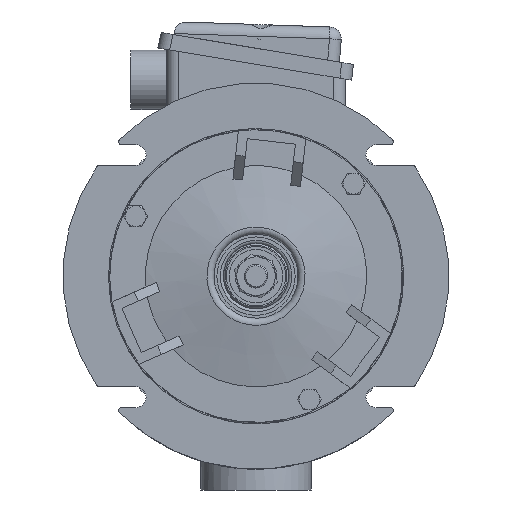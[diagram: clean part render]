
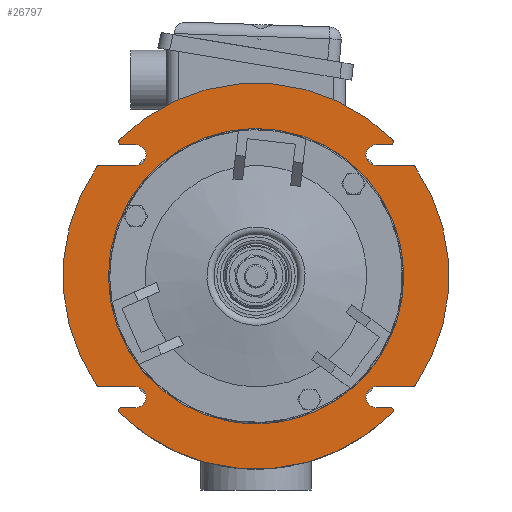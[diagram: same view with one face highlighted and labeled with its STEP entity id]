
A CAD part, front view. The second image highlights one B-rep face of the part: STEP entity #26797.
In plain terms, the highlighted planar face has unit normal (0, -1, 0).
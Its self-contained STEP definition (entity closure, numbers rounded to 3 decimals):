
#1094=FACE_BOUND('',#4589,.T.);
#1760=PLANE('',#29165);
#3012=FACE_OUTER_BOUND('',#4588,.T.);
#4588=EDGE_LOOP('',(#22382,#22383,#22384,#22385,#22386,#22387,#22388,#22389,
#22390,#22391,#22392,#22393,#22394,#22395,#22396,#22397,#22398,#22399,#22400,
#22401,#22402,#22403,#22404,#22405));
#4589=EDGE_LOOP('',(#22406,#22407));
#6490=LINE('',#51226,#8479);
#6493=LINE('',#51236,#8482);
#6494=LINE('',#51240,#8483);
#6495=LINE('',#51248,#8484);
#6496=LINE('',#51252,#8485);
#6497=LINE('',#51260,#8486);
#6498=LINE('',#51264,#8487);
#6499=LINE('',#51272,#8488);
#8479=VECTOR('',#35334,1.);
#8482=VECTOR('',#35343,1.);
#8483=VECTOR('',#35346,1.);
#8484=VECTOR('',#35353,1.);
#8485=VECTOR('',#35356,1.);
#8486=VECTOR('',#35363,1.);
#8487=VECTOR('',#35366,1.);
#8488=VECTOR('',#35373,1.);
#9787=CIRCLE('',#29163,0.1);
#9788=CIRCLE('',#29166,6.5);
#9789=CIRCLE('',#29167,0.1);
#9790=CIRCLE('',#29168,0.35);
#9791=CIRCLE('',#29169,0.1);
#9792=CIRCLE('',#29170,6.5);
#9793=CIRCLE('',#29171,0.1);
#9794=CIRCLE('',#29172,0.35);
#9795=CIRCLE('',#29173,0.1);
#9796=CIRCLE('',#29174,6.5);
#9797=CIRCLE('',#29175,0.1);
#9798=CIRCLE('',#29176,0.35);
#9799=CIRCLE('',#29177,0.1);
#9800=CIRCLE('',#29178,6.5);
#9801=CIRCLE('',#29179,0.1);
#9802=CIRCLE('',#29180,0.35);
#9803=CIRCLE('',#29181,4.97);
#9804=CIRCLE('',#29182,4.97);
#12072=VERTEX_POINT('',#51219);
#12073=VERTEX_POINT('',#51221);
#12074=VERTEX_POINT('',#51225);
#12076=VERTEX_POINT('',#51231);
#12077=VERTEX_POINT('',#51233);
#12078=VERTEX_POINT('',#51235);
#12079=VERTEX_POINT('',#51237);
#12080=VERTEX_POINT('',#51239);
#12081=VERTEX_POINT('',#51241);
#12082=VERTEX_POINT('',#51243);
#12083=VERTEX_POINT('',#51245);
#12084=VERTEX_POINT('',#51247);
#12085=VERTEX_POINT('',#51249);
#12086=VERTEX_POINT('',#51251);
#12087=VERTEX_POINT('',#51253);
#12088=VERTEX_POINT('',#51255);
#12089=VERTEX_POINT('',#51257);
#12090=VERTEX_POINT('',#51259);
#12091=VERTEX_POINT('',#51261);
#12092=VERTEX_POINT('',#51263);
#12093=VERTEX_POINT('',#51265);
#12094=VERTEX_POINT('',#51267);
#12095=VERTEX_POINT('',#51269);
#12096=VERTEX_POINT('',#51271);
#12097=VERTEX_POINT('',#51274);
#12098=VERTEX_POINT('',#51275);
#15609=EDGE_CURVE('',#12072,#12073,#9787,.T.);
#15611=EDGE_CURVE('',#12074,#12073,#6490,.T.);
#15614=EDGE_CURVE('',#12072,#12076,#9788,.T.);
#15615=EDGE_CURVE('',#12077,#12076,#9789,.T.);
#15616=EDGE_CURVE('',#12077,#12078,#6493,.T.);
#15617=EDGE_CURVE('',#12079,#12078,#9790,.T.);
#15618=EDGE_CURVE('',#12079,#12080,#6494,.T.);
#15619=EDGE_CURVE('',#12081,#12080,#9791,.T.);
#15620=EDGE_CURVE('',#12081,#12082,#9792,.T.);
#15621=EDGE_CURVE('',#12083,#12082,#9793,.T.);
#15622=EDGE_CURVE('',#12083,#12084,#6495,.T.);
#15623=EDGE_CURVE('',#12085,#12084,#9794,.T.);
#15624=EDGE_CURVE('',#12085,#12086,#6496,.T.);
#15625=EDGE_CURVE('',#12087,#12086,#9795,.T.);
#15626=EDGE_CURVE('',#12087,#12088,#9796,.T.);
#15627=EDGE_CURVE('',#12089,#12088,#9797,.T.);
#15628=EDGE_CURVE('',#12089,#12090,#6497,.T.);
#15629=EDGE_CURVE('',#12091,#12090,#9798,.T.);
#15630=EDGE_CURVE('',#12091,#12092,#6498,.T.);
#15631=EDGE_CURVE('',#12093,#12092,#9799,.T.);
#15632=EDGE_CURVE('',#12093,#12094,#9800,.T.);
#15633=EDGE_CURVE('',#12095,#12094,#9801,.T.);
#15634=EDGE_CURVE('',#12095,#12096,#6499,.T.);
#15635=EDGE_CURVE('',#12074,#12096,#9802,.T.);
#15636=EDGE_CURVE('',#12097,#12098,#9803,.T.);
#15637=EDGE_CURVE('',#12098,#12097,#9804,.T.);
#22382=ORIENTED_EDGE('',*,*,#15609,.F.);
#22383=ORIENTED_EDGE('',*,*,#15614,.T.);
#22384=ORIENTED_EDGE('',*,*,#15615,.F.);
#22385=ORIENTED_EDGE('',*,*,#15616,.T.);
#22386=ORIENTED_EDGE('',*,*,#15617,.F.);
#22387=ORIENTED_EDGE('',*,*,#15618,.T.);
#22388=ORIENTED_EDGE('',*,*,#15619,.F.);
#22389=ORIENTED_EDGE('',*,*,#15620,.T.);
#22390=ORIENTED_EDGE('',*,*,#15621,.F.);
#22391=ORIENTED_EDGE('',*,*,#15622,.T.);
#22392=ORIENTED_EDGE('',*,*,#15623,.F.);
#22393=ORIENTED_EDGE('',*,*,#15624,.T.);
#22394=ORIENTED_EDGE('',*,*,#15625,.F.);
#22395=ORIENTED_EDGE('',*,*,#15626,.T.);
#22396=ORIENTED_EDGE('',*,*,#15627,.F.);
#22397=ORIENTED_EDGE('',*,*,#15628,.T.);
#22398=ORIENTED_EDGE('',*,*,#15629,.F.);
#22399=ORIENTED_EDGE('',*,*,#15630,.T.);
#22400=ORIENTED_EDGE('',*,*,#15631,.F.);
#22401=ORIENTED_EDGE('',*,*,#15632,.T.);
#22402=ORIENTED_EDGE('',*,*,#15633,.F.);
#22403=ORIENTED_EDGE('',*,*,#15634,.T.);
#22404=ORIENTED_EDGE('',*,*,#15635,.F.);
#22405=ORIENTED_EDGE('',*,*,#15611,.T.);
#22406=ORIENTED_EDGE('',*,*,#15636,.F.);
#22407=ORIENTED_EDGE('',*,*,#15637,.F.);
#26797=ADVANCED_FACE('',(#3012,#1094),#1760,.T.);
#29163=AXIS2_PLACEMENT_3D('',#51222,#35329,#35330);
#29165=AXIS2_PLACEMENT_3D('',#51230,#35337,#35338);
#29166=AXIS2_PLACEMENT_3D('',#51232,#35339,#35340);
#29167=AXIS2_PLACEMENT_3D('',#51234,#35341,#35342);
#29168=AXIS2_PLACEMENT_3D('',#51238,#35344,#35345);
#29169=AXIS2_PLACEMENT_3D('',#51242,#35347,#35348);
#29170=AXIS2_PLACEMENT_3D('',#51244,#35349,#35350);
#29171=AXIS2_PLACEMENT_3D('',#51246,#35351,#35352);
#29172=AXIS2_PLACEMENT_3D('',#51250,#35354,#35355);
#29173=AXIS2_PLACEMENT_3D('',#51254,#35357,#35358);
#29174=AXIS2_PLACEMENT_3D('',#51256,#35359,#35360);
#29175=AXIS2_PLACEMENT_3D('',#51258,#35361,#35362);
#29176=AXIS2_PLACEMENT_3D('',#51262,#35364,#35365);
#29177=AXIS2_PLACEMENT_3D('',#51266,#35367,#35368);
#29178=AXIS2_PLACEMENT_3D('',#51268,#35369,#35370);
#29179=AXIS2_PLACEMENT_3D('',#51270,#35371,#35372);
#29180=AXIS2_PLACEMENT_3D('',#51273,#35374,#35375);
#29181=AXIS2_PLACEMENT_3D('',#51276,#35376,#35377);
#29182=AXIS2_PLACEMENT_3D('',#51277,#35378,#35379);
#35329=DIRECTION('center_axis',(0.,1.,0.));
#35330=DIRECTION('ref_axis',(0.466,0.,-0.885));
#35334=DIRECTION('',(1.,0.,0.));
#35337=DIRECTION('center_axis',(0.,-1.,0.));
#35338=DIRECTION('ref_axis',(0.,0.,-1.));
#35339=DIRECTION('center_axis',(0.,-1.,0.));
#35340=DIRECTION('ref_axis',(1.,0.,0.));
#35341=DIRECTION('center_axis',(0.,1.,0.));
#35342=DIRECTION('ref_axis',(0.466,0.,0.885));
#35343=DIRECTION('',(-1.,0.,0.));
#35344=DIRECTION('center_axis',(0.,-1.,0.));
#35345=DIRECTION('ref_axis',(-0.707,0.,0.707));
#35346=DIRECTION('',(1.,0.,0.));
#35347=DIRECTION('center_axis',(0.,1.,0.));
#35348=DIRECTION('ref_axis',(0.924,0.,-0.383));
#35349=DIRECTION('center_axis',(0.,-1.,0.));
#35350=DIRECTION('ref_axis',(1.,0.,0.));
#35351=DIRECTION('center_axis',(0.,1.,0.));
#35352=DIRECTION('ref_axis',(-0.924,0.,-0.383));
#35353=DIRECTION('',(1.,0.,0.));
#35354=DIRECTION('center_axis',(0.,-1.,0.));
#35355=DIRECTION('ref_axis',(0.707,0.,-0.707));
#35356=DIRECTION('',(-1.,0.,0.));
#35357=DIRECTION('center_axis',(0.,1.,0.));
#35358=DIRECTION('ref_axis',(-0.466,0.,0.885));
#35359=DIRECTION('center_axis',(0.,-1.,0.));
#35360=DIRECTION('ref_axis',(1.,0.,0.));
#35361=DIRECTION('center_axis',(0.,1.,0.));
#35362=DIRECTION('ref_axis',(-0.466,0.,-0.885));
#35363=DIRECTION('',(1.,0.,0.));
#35364=DIRECTION('center_axis',(0.,-1.,0.));
#35365=DIRECTION('ref_axis',(0.707,0.,-0.707));
#35366=DIRECTION('',(-1.,0.,0.));
#35367=DIRECTION('center_axis',(0.,1.,0.));
#35368=DIRECTION('ref_axis',(-0.924,0.,0.383));
#35369=DIRECTION('center_axis',(0.,-1.,0.));
#35370=DIRECTION('ref_axis',(1.,0.,0.));
#35371=DIRECTION('center_axis',(0.,1.,0.));
#35372=DIRECTION('ref_axis',(0.924,0.,0.383));
#35373=DIRECTION('',(-1.,0.,0.));
#35374=DIRECTION('center_axis',(0.,-1.,0.));
#35375=DIRECTION('ref_axis',(-0.707,0.,0.707));
#35376=DIRECTION('center_axis',(0.,-1.,0.));
#35377=DIRECTION('ref_axis',(1.,0.,0.));
#35378=DIRECTION('center_axis',(0.,-1.,0.));
#35379=DIRECTION('ref_axis',(1.,0.,0.));
#51219=CARTESIAN_POINT('',(5.357,0.223,-3.682));
#51221=CARTESIAN_POINT('',(5.274,0.223,-3.725));
#51222=CARTESIAN_POINT('Origin',(5.274,0.223,-3.625));
#51225=CARTESIAN_POINT('',(4.05,0.223,-3.725));
#51226=CARTESIAN_POINT('',(6.463,0.223,-3.725));
#51230=CARTESIAN_POINT('Origin',(4.97,0.223,0.));
#51231=CARTESIAN_POINT('',(5.357,0.223,3.682));
#51232=CARTESIAN_POINT('Origin',(0.,0.223,0.));
#51233=CARTESIAN_POINT('',(5.274,0.223,3.725));
#51234=CARTESIAN_POINT('Origin',(5.274,0.223,3.625));
#51235=CARTESIAN_POINT('',(4.05,0.223,3.725));
#51236=CARTESIAN_POINT('',(6.463,0.223,3.725));
#51237=CARTESIAN_POINT('',(4.05,0.223,4.425));
#51238=CARTESIAN_POINT('Origin',(4.05,0.223,4.075));
#51239=CARTESIAN_POINT('',(4.526,0.223,4.425));
#51240=CARTESIAN_POINT('',(4.335,0.223,4.425));
#51241=CARTESIAN_POINT('',(4.597,0.223,4.596));
#51242=CARTESIAN_POINT('Origin',(4.526,0.223,4.525));
#51243=CARTESIAN_POINT('',(-4.597,0.223,4.596));
#51244=CARTESIAN_POINT('Origin',(0.,0.223,0.));
#51245=CARTESIAN_POINT('',(-4.526,0.223,4.425));
#51246=CARTESIAN_POINT('Origin',(-4.526,0.223,4.525));
#51247=CARTESIAN_POINT('',(-4.05,0.223,4.425));
#51248=CARTESIAN_POINT('',(0.635,0.223,4.425));
#51249=CARTESIAN_POINT('',(-4.05,0.223,3.725));
#51250=CARTESIAN_POINT('Origin',(-4.05,0.223,4.075));
#51251=CARTESIAN_POINT('',(-5.274,0.223,3.725));
#51252=CARTESIAN_POINT('',(-1.493,0.223,3.725));
#51253=CARTESIAN_POINT('',(-5.357,0.223,3.682));
#51254=CARTESIAN_POINT('Origin',(-5.274,0.223,3.625));
#51255=CARTESIAN_POINT('',(-5.357,0.223,-3.682));
#51256=CARTESIAN_POINT('Origin',(0.,0.223,0.));
#51257=CARTESIAN_POINT('',(-5.274,0.223,-3.725));
#51258=CARTESIAN_POINT('Origin',(-5.274,0.223,-3.625));
#51259=CARTESIAN_POINT('',(-4.05,0.223,-3.725));
#51260=CARTESIAN_POINT('',(-1.493,0.223,-3.725));
#51261=CARTESIAN_POINT('',(-4.05,0.223,-4.425));
#51262=CARTESIAN_POINT('Origin',(-4.05,0.223,-4.075));
#51263=CARTESIAN_POINT('',(-4.526,0.223,-4.425));
#51264=CARTESIAN_POINT('',(0.635,0.223,-4.425));
#51265=CARTESIAN_POINT('',(-4.597,0.223,-4.596));
#51266=CARTESIAN_POINT('Origin',(-4.526,0.223,-4.525));
#51267=CARTESIAN_POINT('',(4.597,0.223,-4.596));
#51268=CARTESIAN_POINT('Origin',(0.,0.223,0.));
#51269=CARTESIAN_POINT('',(4.526,0.223,-4.425));
#51270=CARTESIAN_POINT('Origin',(4.526,0.223,-4.525));
#51271=CARTESIAN_POINT('',(4.05,0.223,-4.425));
#51272=CARTESIAN_POINT('',(4.335,0.223,-4.425));
#51273=CARTESIAN_POINT('Origin',(4.05,0.223,-4.075));
#51274=CARTESIAN_POINT('',(4.97,0.223,0.));
#51275=CARTESIAN_POINT('',(-4.97,0.223,0.));
#51276=CARTESIAN_POINT('Origin',(0.,0.223,0.));
#51277=CARTESIAN_POINT('Origin',(0.,0.223,0.));
